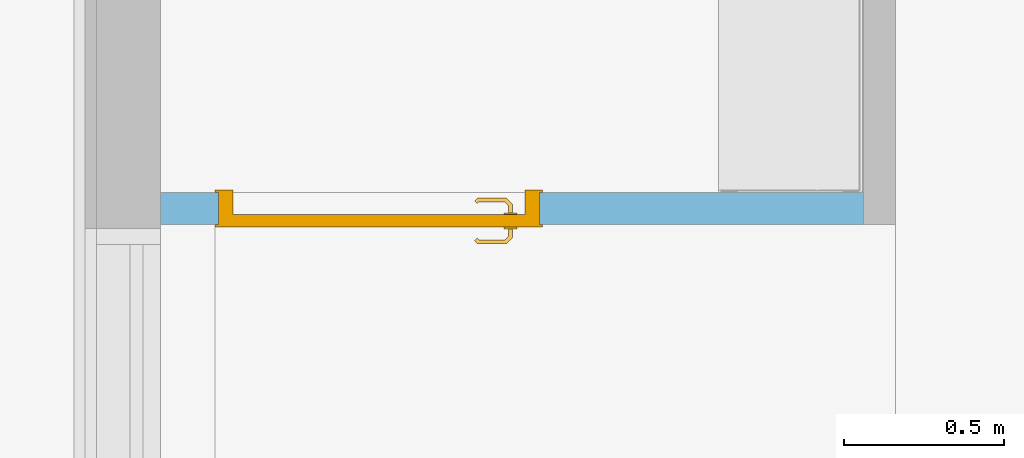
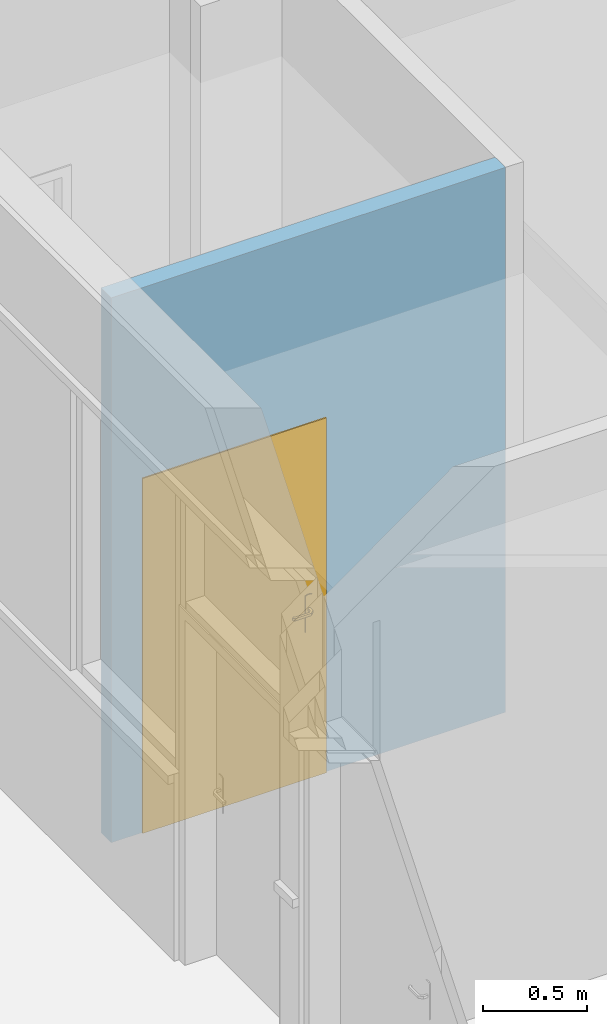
# One storey, part 96 of 137: 1 door, 1 opening, plus 1 element that does not belong to this part.
"""IFC2X3 building model written with IfcOpenShell, lengths in centimetres."""

from ifc_helpers import new_model, entity, si_unit, converted_unit, derived_unit, direction, frame, frame_2d, origin, place, context, subcontext, project, spatial, polyline, rectangle, extrude, clip, bounded_halfspace, faceted_brep, source, transform, mapped, material, material_list, layer, layer_set, layer_usage, type_object, type_shapes, element, fill, save


model = new_model("IFC2X3")

# Units and contexts
model_context = context("Model", 3, precision=0.001, world=origin(), true_north=direction((6.12303176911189e-17, 1.0)))
body_context = subcontext(model_context, "Body", "Model", "MODEL_VIEW")
ifc_project = project(units=[si_unit("LENGTHUNIT", "METRE", prefix="CENTI"), si_unit("AREAUNIT", "SQUARE_METRE"), si_unit("VOLUMEUNIT", "CUBIC_METRE"), converted_unit("PLANEANGLEUNIT", "DEGREE", entity("IfcRatioMeasure", 0.0174532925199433), si_unit("PLANEANGLEUNIT", "RADIAN"), dimensions=[0, 0, 0, 0, 0, 0, 0]), si_unit("MASSUNIT", "GRAM", prefix="KILO"), si_unit("TIMEUNIT", "SECOND"), si_unit("FREQUENCYUNIT", "HERTZ"), si_unit("THERMODYNAMICTEMPERATUREUNIT", "DEGREE_CELSIUS"), derived_unit("THERMALTRANSMITTANCEUNIT", [(si_unit("MASSUNIT", "GRAM", prefix="KILO"), 1), (si_unit("THERMODYNAMICTEMPERATUREUNIT", "KELVIN"), -1), (si_unit("TIMEUNIT", "SECOND"), -3)]), derived_unit("VOLUMETRICFLOWRATEUNIT", [(si_unit("LENGTHUNIT", "METRE"), 3), (si_unit("TIMEUNIT", "SECOND"), -1)]), si_unit("ELECTRICCURRENTUNIT", "AMPERE"), si_unit("ELECTRICVOLTAGEUNIT", "VOLT"), si_unit("POWERUNIT", "WATT"), si_unit("FORCEUNIT", "NEWTON", prefix="KILO"), si_unit("ILLUMINANCEUNIT", "LUX"), si_unit("LUMINOUSFLUXUNIT", "LUMEN"), si_unit("LUMINOUSINTENSITYUNIT", "CANDELA"), derived_unit("USERDEFINED", [(si_unit("MASSUNIT", "GRAM", prefix="KILO"), -1), (si_unit("LENGTHUNIT", "METRE"), -2), (si_unit("TIMEUNIT", "SECOND"), 3), (si_unit("LUMINOUSFLUXUNIT", "LUMEN"), 1)]), derived_unit("LINEARVELOCITYUNIT", [(si_unit("LENGTHUNIT", "METRE"), 1), (si_unit("TIMEUNIT", "SECOND"), -1)]), si_unit("PRESSUREUNIT", "PASCAL"), derived_unit("USERDEFINED", [(si_unit("LENGTHUNIT", "METRE"), -2), (si_unit("MASSUNIT", "GRAM", prefix="KILO"), 1), (si_unit("TIMEUNIT", "SECOND"), -2)])], contexts=[model_context])

# Site, building, storey
site_placement = place(None, frame((8.62739174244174, -249.285249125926, 0.0)))
site = spatial("IfcSite", under=ifc_project, at=site_placement, Name="Default", CompositionType="ELEMENT")
building_placement = place(site_placement, origin())
building = spatial("IfcBuilding", under=site, at=building_placement, CompositionType="ELEMENT")
storey_placement = place(building_placement, origin())
storey = spatial("IfcBuildingStorey", under=building, at=storey_placement, Name="RDC", CompositionType="ELEMENT", Elevation=-8.82465566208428e-11)

# Wall, opening, door
ifc_material_1 = material(Name="Stuc")
ifc_layer = layer(ifc_material_1, 10.0)
ifc_layer_set = layer_set([ifc_layer], Name="Mur de base:CIM 10")
ifc_layer_usage = layer_usage(ifc_layer_set, "AXIS2", "NEGATIVE", 5.0)
wall_type = type_object("IfcWallType", Name="Mur de base:CIM 10", PredefinedType="STANDARD", material=ifc_layer_set)
wall_placement = place(storey_placement, frame((3272.90482780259, 5417.48020813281, 0.0), z_axis=(0.0, 0.0, 1.0), x_axis=(-1.0, 0.0, 0.0)))
wall = element("IfcWallStandardCase", 1, at=wall_placement, inside=storey, type_object=wall_type, material=ifc_layer_usage, Name="Mur de base:CIM 10", ObjectType="Mur de base:CIM 10", context=body_context, shape_type="Clipping", body=[
    clip(extrude(rectangle(XDim=219.00000001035, YDim=9.99999999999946, at=frame_2d((109.500000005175, 4.39648317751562e-14), x_axis=(-1.0, 0.0))), origin(), (0.0, 0.0, 1.0), 320.000000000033), bounded_halfspace(frame((0.0, -5.0, 320.0), z_axis=(0.0, 0.0, -1.0), x_axis=(0.0, -1.0, 0.0)), True, frame((0.0, -5.0, 320.0)), polyline([(0.0, 0.0), (219.0, 0.0), (219.0, 10.0), (0.0, 10.0), (0.0, 0.0)]))),
])
opening_placement = place(wall_placement, frame((101.0, -5.0, 0.0)))
opening = element("IfcOpeningElement", 2, at=opening_placement, cuts=wall, Name="Simple(R)_bois_mu:93 x 204 cm:1", ObjectType="Opening", context=body_context, shape_type="SweptSolid", body=[
    extrude(rectangle(XDim=207.499999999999, YDim=99.9999999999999, at=frame_2d((103.749999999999, 50.0), x_axis=(1.0, 0.0))), frame((0.0, 0.0, 0.0), z_axis=(0.0, 1.0, 0.0), x_axis=(0.0, 0.0, 1.0)), (0.0, 0.0, 1.0), 10.0),
])
ifc_material_2 = material(Name="Porte - Poignée")
ifc_material_3 = material(Name="Porte - Cadre")
ifc_material_4 = material(Name="Porte - Panneau")
ifc_material_list_1 = material_list([ifc_material_2, ifc_material_3, ifc_material_4])
ifc_material_list_2 = material_list([ifc_material_2, ifc_material_3, ifc_material_4])
door_style = type_object("IfcDoorStyle", Name="93 x 204 cm", ConstructionType="NOTDEFINED", OperationType="SINGLE_SWING_LEFT", ParameterTakesPrecedence=False, Sizeable=False, material=ifc_material_list_2)
shared_shape = source(origin(), body_context, "Body", "Brep", [
    faceted_brep([(92.2025298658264, 3.69999999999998, 100.778044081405), (91.7974701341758, 3.69999999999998, 100.778044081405), (91.3999999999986, 3.69999999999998, 100.699999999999), (91.4000000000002, 3.69999999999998, 99.3000000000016), (91.7974701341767, 3.69999999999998, 99.2219559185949), (92.2025298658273, 3.69999999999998, 99.2219559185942), (92.6000000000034, 3.69999999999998, 99.2999999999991), (92.600000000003, 3.69999999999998, 100.699999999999), (91.3999999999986, 5.94852045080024, 100.699999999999), (91.3999999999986, 5.94852045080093, 99.3000000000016), (91.7974701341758, 6.1131579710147, 100.778044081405), (92.2025298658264, 6.2809392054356, 100.778044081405), (90.5838906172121, 7.89957845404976, 100.778044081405), (90.4161093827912, 7.49451872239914, 100.778044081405), (82.0793122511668, 7.49451872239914, 100.778044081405), (81.911531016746, 7.89957845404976, 100.778044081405), (81.1451046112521, 7.13315204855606, 100.778044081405), (81.4315250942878, 6.84673156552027, 100.778044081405), (92.600000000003, 6.44557672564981, 100.699999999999), (92.6000000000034, 6.44557672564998, 99.2999999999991), (92.2025298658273, 6.28093920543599, 99.2219559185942), (91.7974701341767, 6.11315797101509, 99.2219559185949), (90.4161093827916, 7.49451872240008, 99.2219559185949), (90.5838906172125, 7.8995784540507, 99.2219559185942), (81.9115310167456, 7.8995784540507, 99.2219559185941), (82.0793122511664, 7.49451872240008, 99.2219559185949), (81.4315250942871, 6.84673156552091, 99.2219559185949), (81.1451046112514, 7.13315204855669, 99.2219559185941), (90.2514718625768, 7.09704858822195, 100.699999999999), (90.2514718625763, 7.09704858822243, 99.3000000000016), (90.7485281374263, 8.29704858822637, 100.699999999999), (90.7485281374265, 8.29704858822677, 99.2999999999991), (86.247710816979, 7.09704858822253, 100.699999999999), (82.2439497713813, 7.09704858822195, 100.699999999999), (82.2439497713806, 7.09704858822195, 99.3000000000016), (86.247710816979, 7.09704858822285, 99.3000000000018), (86.2477108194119, 7.71249275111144, 100.787811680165), (85.7399422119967, 8.29704858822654, 100.699999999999), (81.7468934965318, 8.29704858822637, 100.699999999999), (86.7554791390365, 8.29704858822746, 99.2999999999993), (81.7468934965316, 8.29704858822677, 99.2999999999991), (86.2477107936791, 7.71249274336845, 99.2121883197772), (80.8640507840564, 7.41420587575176, 100.699999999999), (80.8640507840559, 7.41420587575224, 99.2999999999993), (81.7125789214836, 6.5656777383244, 99.3000000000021), (81.7125789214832, 6.56567773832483, 100.699999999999)], [[[0, 1, 2, 3, 4, 5, 6, 7]], [[8, 9, 3, 2]], [[1, 10, 8, 2]], [[1, 0, 11, 12, 13, 10]], [[14, 15, 16, 17]], [[7, 18, 11, 0]], [[18, 7, 6, 19]], [[6, 5, 20, 19]], [[5, 4, 21, 22, 23, 20]], [[24, 25, 26, 27]], [[4, 3, 9, 21]], [[28, 29, 9, 8]], [[8, 10, 13, 28]], [[18, 30, 12, 11]], [[31, 30, 18, 19]], [[19, 20, 23, 31]], [[21, 9, 29, 22]], [[29, 28, 32, 33, 34, 35]], [[36, 32, 13]], [[37, 38, 15]], [[37, 12, 30]], [[36, 12, 37]], [[14, 32, 36]], [[36, 15, 14]], [[28, 13, 32]], [[32, 14, 33]], [[12, 36, 13]], [[15, 36, 37]], [[30, 31, 39, 40, 38, 37]], [[23, 41, 39]], [[24, 39, 41]], [[39, 31, 23]], [[39, 24, 40]], [[22, 35, 41]], [[41, 23, 22]], [[41, 35, 25]], [[35, 22, 29]], [[34, 25, 35]], [[24, 41, 25]], [[17, 16, 42, 43, 27, 26, 44, 45]], [[45, 44, 34, 33]], [[33, 14, 17, 45]], [[15, 38, 42, 16]], [[43, 42, 38, 40]], [[24, 27, 43, 40]], [[34, 44, 26, 25]]]),
    faceted_brep([(91.7974701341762, -1.30000000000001, 100.778044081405), (92.2025298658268, -1.30000000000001, 100.778044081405), (92.6000000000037, -1.30000000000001, 100.699999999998), (92.6000000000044, -1.30000000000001, 99.2999999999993), (92.2025298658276, -1.30000000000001, 99.2219559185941), (91.797470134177, -1.30000000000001, 99.2219559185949), (91.3999999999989, -1.30000000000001, 99.3000000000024), (91.3999999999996, -1.30000000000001, 100.699999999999), (92.2025298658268, -3.90045754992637, 100.778044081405), (92.6000000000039, -4.06509507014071, 100.699999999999), (91.7974701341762, -3.73267631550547, 100.778044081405), (90.4298602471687, -5.10028620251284, 100.778044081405), (90.5976414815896, -5.50534593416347, 100.778044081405), (81.9142453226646, -5.50534593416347, 100.778044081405), (82.0820265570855, -5.10028620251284, 100.778044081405), (81.4342394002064, -4.4524990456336, 100.778044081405), (81.1478189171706, -4.73891952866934, 100.778044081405), (91.3999999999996, -3.56803879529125, 100.699999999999), (91.3999999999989, -3.56803879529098, 99.3000000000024), (91.797470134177, -3.7326763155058, 99.2219559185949), (92.2025298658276, -3.9004575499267, 99.2219559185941), (90.5976414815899, -5.50534593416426, 99.2219559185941), (90.429860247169, -5.10028620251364, 99.2219559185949), (82.0820265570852, -5.10028620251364, 99.2219559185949), (81.9142453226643, -5.50534593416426, 99.2219559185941), (81.14781891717, -4.73891952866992, 99.2219559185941), (81.4342394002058, -4.45249904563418, 99.2219559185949), (92.6000000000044, -4.06509507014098, 99.2999999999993), (90.762279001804, -5.90281606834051, 100.699999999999), (90.2652227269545, -4.70281606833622, 100.699999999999), (90.2652227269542, -4.70281606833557, 99.3000000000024), (90.7622790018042, -5.90281606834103, 99.2999999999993), (86.2559433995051, -5.31828027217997, 100.787811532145), (86.769230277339, -5.90281606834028, 100.699999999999), (81.7496078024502, -5.90281606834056, 100.699999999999), (86.255943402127, -4.70281606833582, 100.699999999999), (82.2466640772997, -4.70281606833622, 100.699999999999), (86.2559436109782, -4.70281606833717, 99.3000000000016), (82.2466640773, -4.70281606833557, 99.3000000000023), (86.2559434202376, -5.31828027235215, 99.2121884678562), (85.7426572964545, -5.90281606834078, 99.2999999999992), (81.74960780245, -5.90281606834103, 99.2999999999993), (81.7152932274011, -4.17144521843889, 99.3000000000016), (80.8667650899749, -5.01997335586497, 99.2999999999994), (80.8667650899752, -5.01997335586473, 100.699999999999), (81.7152932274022, -4.17144521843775, 100.699999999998)], [[[0, 1, 2, 3, 4, 5, 6, 7]], [[2, 1, 8, 9]], [[1, 0, 10, 11, 12, 8]], [[13, 14, 15, 16]], [[0, 7, 17, 10]], [[18, 17, 7, 6]], [[5, 19, 18, 6]], [[5, 4, 20, 21, 22, 19]], [[23, 24, 25, 26]], [[3, 27, 20, 4]], [[9, 27, 3, 2]], [[9, 8, 12, 28]], [[10, 17, 29, 11]], [[30, 29, 17, 18]], [[18, 19, 22, 30]], [[20, 27, 31, 21]], [[28, 31, 27, 9]], [[12, 32, 33]], [[13, 33, 32]], [[33, 28, 12]], [[33, 13, 34]], [[11, 35, 32]], [[32, 12, 11]], [[32, 35, 14]], [[35, 11, 29]], [[36, 14, 35]], [[13, 32, 14]], [[29, 30, 37, 38, 36, 35]], [[39, 37, 22]], [[40, 41, 24]], [[40, 21, 31]], [[39, 21, 40]], [[23, 37, 39]], [[39, 24, 23]], [[30, 22, 37]], [[37, 23, 38]], [[21, 39, 22]], [[24, 39, 40]], [[31, 28, 33, 34, 41, 40]], [[42, 26, 25, 43, 44, 16, 15, 45]], [[13, 16, 44, 34]], [[36, 45, 15, 14]], [[42, 45, 36, 38]], [[38, 23, 26, 42]], [[24, 41, 43, 25]], [[44, 43, 41, 34]]]),
    faceted_brep([(92.0, 3.19999999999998, 86.4641016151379), (93.0352761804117, 3.19999999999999, 86.6003983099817), (94.0, 3.19999999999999, 87.0), (94.0, 3.19999999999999, 108.0), (93.0352761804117, 3.19999999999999, 108.399601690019), (92.0, 3.19999999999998, 108.535898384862), (90.9647238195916, 3.19999999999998, 108.399601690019), (90.0, 3.19999999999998, 108.0), (90.0, 3.19999999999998, 87.0), (90.9647238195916, 3.19999999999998, 86.6003983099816), (92.0, 3.69999999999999, 108.535898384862), (93.0352761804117, 3.69999999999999, 108.399601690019), (94.0, 3.69999999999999, 108.0), (94.0, 3.69999999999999, 87.0), (93.0352761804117, 3.69999999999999, 86.6003983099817), (92.0, 3.69999999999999, 86.4641016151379), (90.9647238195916, 3.69999999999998, 86.6003983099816), (90.0, 3.69999999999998, 87.0), (90.0, 3.69999999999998, 108.0), (90.9647238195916, 3.69999999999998, 108.399601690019)], [[[0, 1, 2, 3, 4, 5, 6, 7, 8, 9]], [[10, 11, 12, 13, 14, 15, 16, 17, 18, 19]], [[6, 19, 18, 7]], [[5, 10, 19, 6]], [[4, 11, 10, 5]], [[4, 3, 12, 11]], [[12, 3, 2, 13]], [[1, 14, 13, 2]], [[0, 15, 14, 1]], [[9, 16, 15, 0]], [[9, 8, 17, 16]], [[17, 8, 7, 18]]]),
    faceted_brep([(92.0, -1.30000000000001, 86.4641016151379), (93.0352761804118, -1.30000000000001, 86.6003983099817), (94.0, -1.30000000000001, 87.0), (94.0, -1.30000000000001, 108.0), (93.0352761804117, -1.30000000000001, 108.399601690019), (92.0, -1.30000000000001, 108.535898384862), (90.9647238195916, -1.30000000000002, 108.399601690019), (90.0, -1.30000000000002, 108.0), (90.0, -1.30000000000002, 87.0), (90.9647238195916, -1.30000000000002, 86.6003983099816), (94.0, -0.800000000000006, 108.0), (94.0, -0.800000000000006, 87.0), (93.0352761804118, -0.800000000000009, 86.6003983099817), (92.0, -0.800000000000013, 86.4641016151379), (90.9647238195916, -0.800000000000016, 86.6003983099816), (90.0, -0.800000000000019, 87.0), (90.0, -0.800000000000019, 108.0), (90.9647238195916, -0.800000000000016, 108.399601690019), (92.0, -0.800000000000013, 108.535898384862), (93.0352761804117, -0.800000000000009, 108.399601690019)], [[[0, 1, 2, 3, 4, 5, 6, 7, 8, 9]], [[10, 11, 12, 13, 14, 15, 16, 17, 18, 19]], [[1, 12, 11, 2]], [[0, 13, 12, 1]], [[9, 14, 13, 0]], [[9, 8, 15, 14]], [[15, 8, 7, 16]], [[6, 17, 16, 7]], [[5, 18, 17, 6]], [[4, 19, 18, 5]], [[4, 3, 10, 19]], [[10, 3, 2, 11]]]),
    faceted_brep([(101.0, 0.0, 0.0), (102.0, 0.0, 0.0), (102.0, -0.799999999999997, 0.0), (97.5000000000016, -0.799999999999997, 0.0), (97.5000000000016, 3.2, 0.0), (96.5000000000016, 3.2, 0.0), (96.5000000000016, 10.8000000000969, 0.0), (102.0, 10.8000000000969, 0.0), (102.0, 10.0, 0.0), (101.0, 10.0, 0.0), (101.0, 10.0, 207.499999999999), (101.0, 0.0, 207.499999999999), (102.0, 10.0, 208.499999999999), (0.0, 10.0, 208.499999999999), (0.0, 10.0, 0.0), (1.0, 10.0, 0.0), (1.0, 10.0, 207.499999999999), (102.0, 10.8000000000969, 208.499999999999), (96.5000000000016, 10.8000000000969, 203.0), (5.50000000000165, 10.8000000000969, 203.0), (5.50000000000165, 10.8000000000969, 0.0), (0.0, 10.8000000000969, 0.0), (0.0, 10.8000000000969, 208.499999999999), (96.5000000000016, 3.2, 203.0), (97.5000000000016, 3.2, 204.0), (4.50000000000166, 3.2, 204.0), (4.50000000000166, 3.2, 0.0), (5.50000000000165, 3.2, 0.0), (5.50000000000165, 3.2, 203.0), (97.5000000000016, -0.799999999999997, 204.0), (102.0, -0.799999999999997, 208.499999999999), (0.0, -0.799999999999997, 208.499999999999), (0.0, -0.799999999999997, 0.0), (4.50000000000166, -0.799999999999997, 0.0), (4.50000000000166, -0.799999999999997, 204.0), (102.0, 0.0, 208.499999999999), (1.0, 0.0, 207.499999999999), (1.0, 0.0, 0.0), (0.0, 0.0, 0.0), (0.0, 0.0, 208.499999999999)], [[[0, 1, 2, 3, 4, 5, 6, 7, 8, 9]], [[9, 10, 11, 0]], [[8, 12, 13, 14, 15, 16, 10, 9]], [[7, 17, 12, 8]], [[6, 18, 19, 20, 21, 22, 17, 7]], [[5, 23, 18, 6]], [[4, 24, 25, 26, 27, 28, 23, 5]], [[3, 29, 24, 4]], [[2, 30, 31, 32, 33, 34, 29, 3]], [[1, 35, 30, 2]], [[0, 11, 36, 37, 38, 39, 35, 1]], [[16, 15, 37, 36]], [[37, 15, 14, 21, 20, 27, 26, 33, 32, 38]], [[22, 21, 14, 13]], [[28, 27, 20, 19]], [[34, 33, 26, 25]], [[39, 38, 32, 31]], [[10, 16, 36, 11]], [[17, 22, 13, 12]], [[23, 28, 19, 18]], [[29, 34, 25, 24]], [[35, 39, 31, 30]]]),
    faceted_brep([(97.5000000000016, -0.799999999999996, 204.0), (4.50000000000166, -0.799999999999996, 204.0), (4.50000000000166, -0.799999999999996, 0.0), (97.5000000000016, -0.799999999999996, 0.0), (97.5000000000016, 3.2, 204.0), (97.5000000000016, 3.2, 0.0), (4.50000000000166, 3.2, 0.0), (4.50000000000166, 3.2, 204.0)], [[[0, 1, 2, 3]], [[4, 5, 6, 7]], [[3, 5, 4, 0]], [[2, 6, 5, 3]], [[1, 7, 6, 2]], [[0, 4, 7, 1]]]),
])
type_shapes(door_style, [shared_shape])
door_placement = place(opening_placement, frame((101.0, 10.0, 0.0), z_axis=(0.0, 0.0, 1.0), x_axis=(-1.0, 0.0, 0.0)))
door = element("IfcDoor", 3, at=door_placement, inside=storey, type_object=door_style, material=ifc_material_list_1, Name="Simple(R)_bois_mu:93 x 204 cm", ObjectType="93 x 204 cm", OverallHeight=207.499999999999, OverallWidth=99.9999999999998, context=body_context, shape_type="MappedRepresentation", body=[
    mapped(shared_shape, transform((0.0, 0.0, 0.0), scale=1.0)),
])
fill(opening, door)

save(model, "model.ifc")
